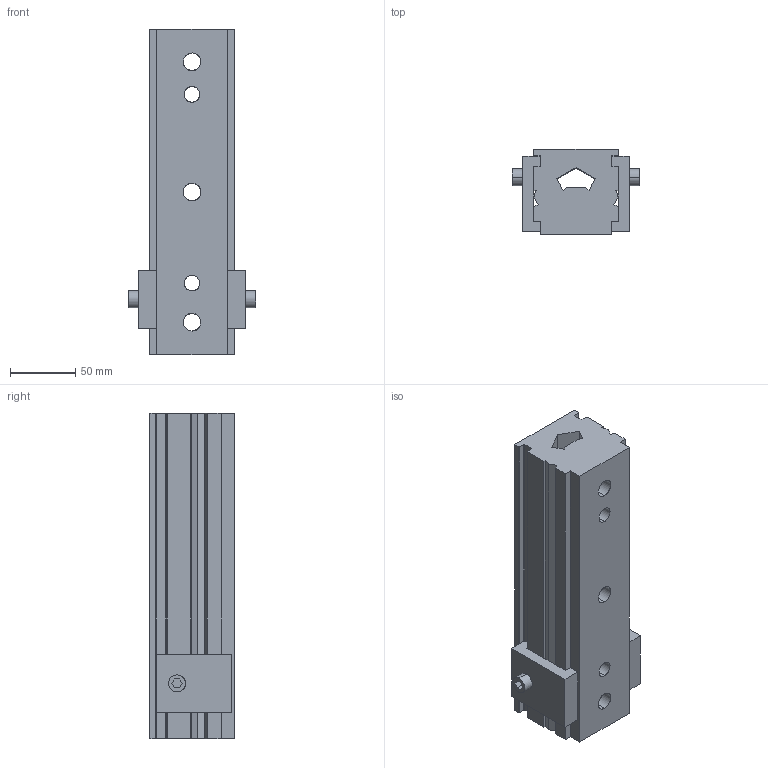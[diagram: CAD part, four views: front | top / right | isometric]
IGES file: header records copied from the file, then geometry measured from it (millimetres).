
Start section: START RECORD GO HERE.
Global section: file name: A945-01-625-01-S-BC.igs; native system: DASSAULT SYSTEMES CATIA V5 R20 - www.3ds.com; preprocessor: CATIA Version 5 Release 20 ; author: Utente; organization: NB04-ASUS; date: 20200417.111929; units: millimetre
Bounding box: 98 x 65 x 250 mm (x, y, z)
Surface area: 113048.6 mm2 (no closed solid volume)
Topology: 0 solids, 0 shells, 117 faces, 684 edges, 684 vertices
Faces by surface type: extrusion 93, revolution 24
